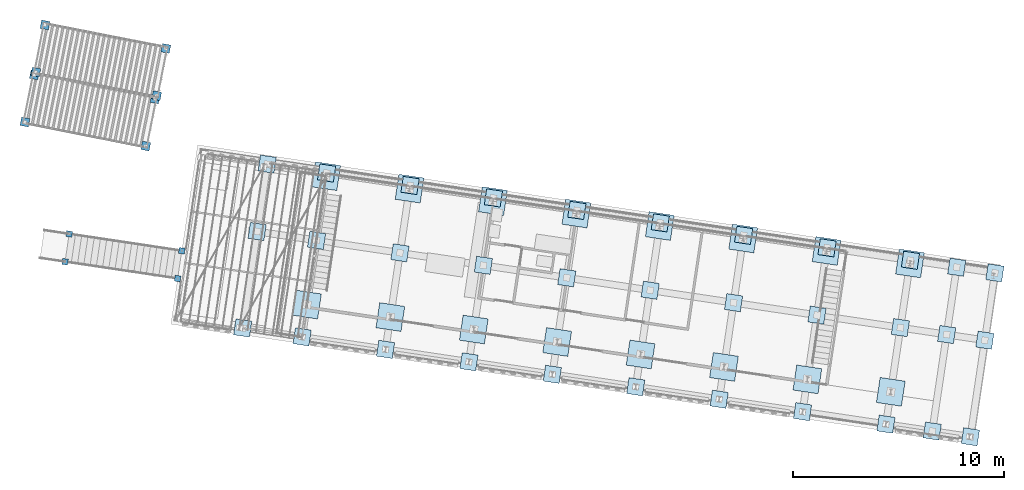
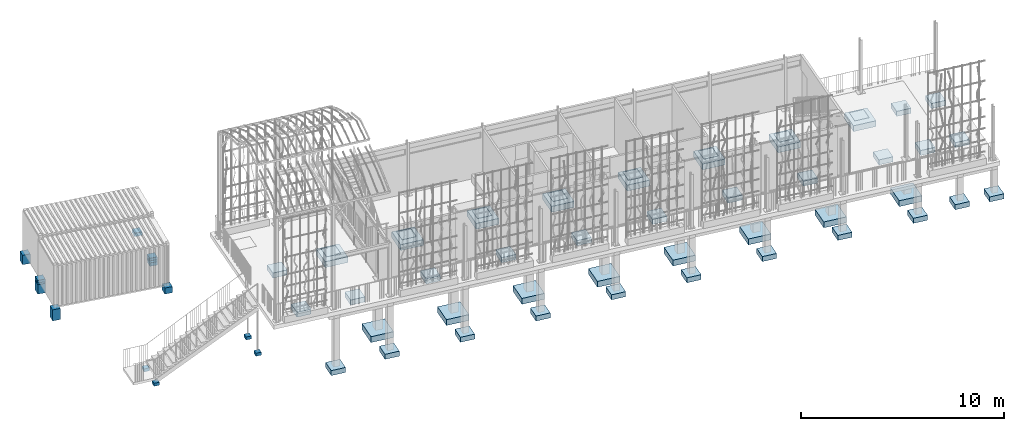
# One storey, part 1 of 143: 61 footings, 4 elements without a shape of their own.
"""IFC4 building model written with IfcOpenShell, lengths in metres."""

from ifc_helpers import new_model, si_unit, direction, frame, origin_with_axes, place, context, subcontext, project, spatial, polyline, outline, extrude, material, element, aggregate, save


model = new_model("IFC4")

# Units and contexts
model_context = context("Model", 3, precision=1e-05, world=origin_with_axes(), true_north=direction((0.0, 1.0)))
body_context = subcontext(model_context, "Body", "Model", "MODEL_VIEW")
ifc_project = project(units=[si_unit("VOLUMEUNIT", "CUBIC_METRE"), si_unit("LENGTHUNIT", "METRE"), si_unit("AREAUNIT", "SQUARE_METRE")], contexts=[model_context])

# Site, building, storey
site_placement = place(None, origin_with_axes())
site = spatial("IfcSite", under=ifc_project, at=site_placement, Name="Lares · Rua das Mercês · artigo 4771")
building_placement = place(site_placement, frame((15.0, 9.7, 15.8), z_axis=(0.0, 0.0, 1.0), x_axis=(0.989015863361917, -0.147809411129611, 0.0)))
building = spatial("IfcBuilding", under=site, at=building_placement, Name="Casa Sobreposta")
storey_placement = place(building_placement, origin_with_axes())
storey = spatial("IfcBuildingStorey", under=building, at=storey_placement, Name="00 · Habitação e estacionamento", Elevation=15.8)

# Footings
ifc_material = material(Name="Betão armado / Stahlbeton", Category="concrete")
footing_1_placement = place(storey_placement, frame((0.0, 0.0, -3.35), z_axis=(0.0, 0.0, 1.0), x_axis=(1.0, 0.0, 0.0)))
element("IfcFooting", 1, at=footing_1_placement, inside=storey, material=ifc_material, Name="Sapata 1A · hipótese", PredefinedType="PAD_FOOTING", context=body_context, shape_type="SweptSolid", body=[
    extrude(outline(polyline([(0.6, -0.48), (0.6, 0.72), (-0.6, 0.72), (-0.6, -0.48), (0.6, -0.48)])), origin_with_axes(), (0.0, 0.0, 1.0), 0.35),
])
footing_2_placement = place(storey_placement, frame((0.0, 0.0, -2.85), z_axis=(0.0, 0.0, 1.0), x_axis=(1.0, 0.0, 0.0)))
element("IfcFooting", 2, at=footing_2_placement, inside=storey, material=ifc_material, Name="Sapata 1B · hipótese", PredefinedType="PAD_FOOTING", context=body_context, shape_type="SweptSolid", body=[
    extrude(outline(polyline([(0.6, 5.68), (0.6, 6.88), (-0.6, 6.88), (-0.6, 5.68), (0.6, 5.68)])), origin_with_axes(), (0.0, 0.0, 1.0), 0.35),
])
footing_3_placement = place(storey_placement, frame((0.0, 0.0, -3.35), z_axis=(0.0, 0.0, 1.0), x_axis=(1.0, 0.0, 0.0)))
element("IfcFooting", 3, at=footing_3_placement, inside=storey, material=ifc_material, Name="Sapata 2A · hipótese", PredefinedType="PAD_FOOTING", context=body_context, shape_type="SweptSolid", body=[
    extrude(outline(polyline([(4.6, -0.48), (4.6, 0.72), (3.4, 0.72), (3.4, -0.48), (4.6, -0.48)])), origin_with_axes(), (0.0, 0.0, 1.0), 0.35),
])
footing_4_placement = place(storey_placement, frame((0.0, 0.0, -2.85), z_axis=(0.0, 0.0, 1.0), x_axis=(1.0, 0.0, 0.0)))
element("IfcFooting", 4, at=footing_4_placement, inside=storey, material=ifc_material, Name="Sapata 2B · hipótese", PredefinedType="PAD_FOOTING", context=body_context, shape_type="SweptSolid", body=[
    extrude(outline(polyline([(4.6, 5.68), (4.6, 6.88), (3.4, 6.88), (3.4, 5.68), (4.6, 5.68)])), origin_with_axes(), (0.0, 0.0, 1.0), 0.35),
])
footing_5_placement = place(storey_placement, frame((0.0, 0.0, -3.1), z_axis=(0.0, 0.0, 1.0), x_axis=(1.0, 0.0, 0.0)))
element("IfcFooting", 5, at=footing_5_placement, inside=storey, material=ifc_material, Name="Sapata 3A · hipótese", PredefinedType="PAD_FOOTING", context=body_context, shape_type="SweptSolid", body=[
    extrude(outline(polyline([(8.6, -0.48), (8.6, 0.72), (7.4, 0.72), (7.4, -0.48), (8.6, -0.48)])), origin_with_axes(), (0.0, 0.0, 1.0), 0.35),
])
footing_6_placement = place(storey_placement, frame((0.0, 0.0, -2.6), z_axis=(0.0, 0.0, 1.0), x_axis=(1.0, 0.0, 0.0)))
element("IfcFooting", 6, at=footing_6_placement, inside=storey, material=ifc_material, Name="Sapata 3B · hipótese", PredefinedType="PAD_FOOTING", context=body_context, shape_type="SweptSolid", body=[
    extrude(outline(polyline([(8.6, 5.68), (8.6, 6.88), (7.4, 6.88), (7.4, 5.68), (8.6, 5.68)])), origin_with_axes(), (0.0, 0.0, 1.0), 0.35),
])
footing_7_placement = place(storey_placement, frame((0.0, 0.0, -3.1), z_axis=(0.0, 0.0, 1.0), x_axis=(1.0, 0.0, 0.0)))
element("IfcFooting", 7, at=footing_7_placement, inside=storey, material=ifc_material, Name="Sapata 4A · hipótese", PredefinedType="PAD_FOOTING", context=body_context, shape_type="SweptSolid", body=[
    extrude(outline(polyline([(12.6, -0.48), (12.6, 0.72), (11.4, 0.72), (11.4, -0.48), (12.6, -0.48)])), origin_with_axes(), (0.0, 0.0, 1.0), 0.35),
])
footing_8_placement = place(storey_placement, frame((0.0, 0.0, -2.6), z_axis=(0.0, 0.0, 1.0), x_axis=(1.0, 0.0, 0.0)))
element("IfcFooting", 8, at=footing_8_placement, inside=storey, material=ifc_material, Name="Sapata 4B · hipótese", PredefinedType="PAD_FOOTING", context=body_context, shape_type="SweptSolid", body=[
    extrude(outline(polyline([(12.6, 5.68), (12.6, 6.88), (11.4, 6.88), (11.4, 5.68), (12.6, 5.68)])), origin_with_axes(), (0.0, 0.0, 1.0), 0.35),
])
footing_9_placement = place(storey_placement, frame((0.0, 0.0, -2.85), z_axis=(0.0, 0.0, 1.0), x_axis=(1.0, 0.0, 0.0)))
element("IfcFooting", 9, at=footing_9_placement, inside=storey, material=ifc_material, Name="Sapata 5A · hipótese", PredefinedType="PAD_FOOTING", context=body_context, shape_type="SweptSolid", body=[
    extrude(outline(polyline([(16.6, -0.48), (16.6, 0.72), (15.4, 0.72), (15.4, -0.48), (16.6, -0.48)])), origin_with_axes(), (0.0, 0.0, 1.0), 0.35),
])
footing_10_placement = place(storey_placement, frame((0.0, 0.0, -2.35), z_axis=(0.0, 0.0, 1.0), x_axis=(1.0, 0.0, 0.0)))
element("IfcFooting", 10, at=footing_10_placement, inside=storey, material=ifc_material, Name="Sapata 5B · hipótese", PredefinedType="PAD_FOOTING", context=body_context, shape_type="SweptSolid", body=[
    extrude(outline(polyline([(16.6, 5.68), (16.6, 6.88), (15.4, 6.88), (15.4, 5.68), (16.6, 5.68)])), origin_with_axes(), (0.0, 0.0, 1.0), 0.35),
])
footing_11_placement = place(storey_placement, frame((0.0, 0.0, -2.6), z_axis=(0.0, 0.0, 1.0), x_axis=(1.0, 0.0, 0.0)))
element("IfcFooting", 11, at=footing_11_placement, inside=storey, material=ifc_material, Name="Sapata 6A · hipótese", PredefinedType="PAD_FOOTING", context=body_context, shape_type="SweptSolid", body=[
    extrude(outline(polyline([(20.6, -0.48), (20.6, 0.72), (19.4, 0.72), (19.4, -0.48), (20.6, -0.48)])), origin_with_axes(), (0.0, 0.0, 1.0), 0.35),
])
footing_12_placement = place(storey_placement, frame((0.0, 0.0, -2.1), z_axis=(0.0, 0.0, 1.0), x_axis=(1.0, 0.0, 0.0)))
element("IfcFooting", 12, at=footing_12_placement, inside=storey, material=ifc_material, Name="Sapata 6B · hipótese", PredefinedType="PAD_FOOTING", context=body_context, shape_type="SweptSolid", body=[
    extrude(outline(polyline([(20.6, 5.68), (20.6, 6.88), (19.4, 6.88), (19.4, 5.68), (20.6, 5.68)])), origin_with_axes(), (0.0, 0.0, 1.0), 0.35),
])
footing_13_placement = place(storey_placement, frame((0.0, 0.0, -2.6), z_axis=(0.0, 0.0, 1.0), x_axis=(1.0, 0.0, 0.0)))
element("IfcFooting", 13, at=footing_13_placement, inside=storey, material=ifc_material, Name="Sapata 7A · hipótese", PredefinedType="PAD_FOOTING", context=body_context, shape_type="SweptSolid", body=[
    extrude(outline(polyline([(24.6, -0.48), (24.6, 0.72), (23.4, 0.72), (23.4, -0.48), (24.6, -0.48)])), origin_with_axes(), (0.0, 0.0, 1.0), 0.35),
])
footing_14_placement = place(storey_placement, frame((0.0, 0.0, -2.1), z_axis=(0.0, 0.0, 1.0), x_axis=(1.0, 0.0, 0.0)))
element("IfcFooting", 14, at=footing_14_placement, inside=storey, material=ifc_material, Name="Sapata 7B · hipótese", PredefinedType="PAD_FOOTING", context=body_context, shape_type="SweptSolid", body=[
    extrude(outline(polyline([(24.6, 5.68), (24.6, 6.88), (23.4, 6.88), (23.4, 5.68), (24.6, 5.68)])), origin_with_axes(), (0.0, 0.0, 1.0), 0.35),
])
footing_15_placement = place(storey_placement, frame((0.0, 0.0, -2.35), z_axis=(0.0, 0.0, 1.0), x_axis=(1.0, 0.0, 0.0)))
element("IfcFooting", 15, at=footing_15_placement, inside=storey, material=ifc_material, Name="Sapata 8A · hipótese", PredefinedType="PAD_FOOTING", context=body_context, shape_type="SweptSolid", body=[
    extrude(outline(polyline([(28.6, -0.48), (28.6, 0.72), (27.4, 0.72), (27.4, -0.48), (28.6, -0.48)])), origin_with_axes(), (0.0, 0.0, 1.0), 0.35),
])
footing_16_placement = place(storey_placement, frame((0.0, 0.0, -1.85), z_axis=(0.0, 0.0, 1.0), x_axis=(1.0, 0.0, 0.0)))
element("IfcFooting", 16, at=footing_16_placement, inside=storey, material=ifc_material, Name="Sapata 8B · hipótese", PredefinedType="PAD_FOOTING", context=body_context, shape_type="SweptSolid", body=[
    extrude(outline(polyline([(28.6, 5.68), (28.6, 6.88), (27.4, 6.88), (27.4, 5.68), (28.6, 5.68)])), origin_with_axes(), (0.0, 0.0, 1.0), 0.35),
])

# Stair, footings
stair_placement = place(storey_placement, origin_with_axes())
stair = element("IfcStair", 17, at=stair_placement, inside=storey, Name="Jardim · escada pela fachada poente", PredefinedType="STRAIGHT_RUN_STAIR")
footing_17_placement = place(stair_placement, frame((0.0, 0.0, -3.19767746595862), z_axis=(0.0, 0.0, 1.0), x_axis=(1.0, 0.0, 0.0)))
footing_17 = element("IfcFooting", 18, at=footing_17_placement, material=ifc_material, Name="Jardim · apoio", PredefinedType="PAD_FOOTING", context=body_context, shape_type="SweptSolid", body=[
    extrude(outline(polyline([(-6.11, 0.295), (-6.11, 0.575), (-6.39, 0.575), (-6.39, 0.295), (-6.11, 0.295)])), origin_with_axes(), (0.0, 0.0, 1.0), 0.18),
])
footing_18_placement = place(stair_placement, frame((0.0, 0.0, -3.62), z_axis=(0.0, 0.0, 1.0), x_axis=(1.0, 0.0, 0.0)))
footing_18 = element("IfcFooting", 19, at=footing_18_placement, material=ifc_material, Name="Jardim · apoio", PredefinedType="PAD_FOOTING", context=body_context, shape_type="SweptSolid", body=[
    extrude(outline(polyline([(-11.51, 0.295), (-11.51, 0.575), (-11.79, 0.575), (-11.79, 0.295), (-11.51, 0.295)])), origin_with_axes(), (0.0, 0.0, 1.0), 0.18),
])
footing_19_placement = place(stair_placement, frame((0.0, 0.0, -3.08553574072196), z_axis=(0.0, 0.0, 1.0), x_axis=(1.0, 0.0, 0.0)))
footing_19 = element("IfcFooting", 20, at=footing_19_placement, material=ifc_material, Name="Jardim · apoio", PredefinedType="PAD_FOOTING", context=body_context, shape_type="SweptSolid", body=[
    extrude(outline(polyline([(-6.11, 1.625), (-6.11, 1.905), (-6.39, 1.905), (-6.39, 1.625), (-6.11, 1.625)])), origin_with_axes(), (0.0, 0.0, 1.0), 0.18),
])
footing_20_placement = place(stair_placement, frame((0.0, 0.0, -3.62), z_axis=(0.0, 0.0, 1.0), x_axis=(1.0, 0.0, 0.0)))
footing_20 = element("IfcFooting", 21, at=footing_20_placement, material=ifc_material, Name="Jardim · apoio", PredefinedType="PAD_FOOTING", context=body_context, shape_type="SweptSolid", body=[
    extrude(outline(polyline([(-11.51, 1.625), (-11.51, 1.905), (-11.79, 1.905), (-11.79, 1.625), (-11.51, 1.625)])), origin_with_axes(), (0.0, 0.0, 1.0), 0.18),
])
aggregate(stair, [footing_17, footing_18, footing_19, footing_20])

# Assembly, footings
assembly_1_placement = place(storey_placement, origin_with_axes())
assembly_1 = element("IfcElementAssembly", 22, at=assembly_1_placement, inside=storey, Name="Pódio · terraço, casa térrea e cisterna", ObjectType="CISTERN_PODIUM", PredefinedType="USERDEFINED")
footing_21_placement = place(assembly_1_placement, frame((0.0, 0.0, -3.8), z_axis=(0.0, 0.0, 1.0), x_axis=(1.0, 0.0, 0.0)))
footing_21 = element("IfcFooting", 23, at=footing_21_placement, material=ifc_material, Name="Pódio suspenso · sapata pontual", PredefinedType="PAD_FOOTING", context=body_context, shape_type="SweptSolid", body=[
    extrude(outline(polyline([(-2.47, -1.81), (-2.47, -1.05), (-3.23, -1.05), (-3.23, -1.81), (-2.47, -1.81)])), origin_with_axes(), (0.0, 0.0, 1.0), 0.3),
])
footing_22_placement = place(assembly_1_placement, frame((0.0, 0.0, -3.3), z_axis=(0.0, 0.0, 1.0), x_axis=(1.0, 0.0, 0.0)))
footing_22 = element("IfcFooting", 24, at=footing_22_placement, material=ifc_material, Name="Pódio suspenso · sapata pontual", PredefinedType="PAD_FOOTING", context=body_context, shape_type="SweptSolid", body=[
    extrude(outline(polyline([(-2.47, 2.82), (-2.47, 3.58), (-3.23, 3.58), (-3.23, 2.82), (-2.47, 2.82)])), origin_with_axes(), (0.0, 0.0, 1.0), 0.3),
])
footing_23_placement = place(assembly_1_placement, frame((0.0, 0.0, -3.05), z_axis=(0.0, 0.0, 1.0), x_axis=(1.0, 0.0, 0.0)))
footing_23 = element("IfcFooting", 25, at=footing_23_placement, material=ifc_material, Name="Pódio suspenso · sapata pontual", PredefinedType="PAD_FOOTING", context=body_context, shape_type="SweptSolid", body=[
    extrude(outline(polyline([(-2.47, 6.05), (-2.47, 6.81), (-3.23, 6.81), (-3.23, 6.05), (-2.47, 6.05)])), origin_with_axes(), (0.0, 0.0, 1.0), 0.3),
])
footing_24_placement = place(assembly_1_placement, frame((0.0, 0.0, -3.55), z_axis=(0.0, 0.0, 1.0), x_axis=(1.0, 0.0, 0.0)))
footing_24 = element("IfcFooting", 26, at=footing_24_placement, material=ifc_material, Name="Pódio suspenso · sapata pontual", PredefinedType="PAD_FOOTING", context=body_context, shape_type="SweptSolid", body=[
    extrude(outline(polyline([(0.38, -1.81), (0.38, -1.05), (-0.38, -1.05), (-0.38, -1.81), (0.38, -1.81)])), origin_with_axes(), (0.0, 0.0, 1.0), 0.3),
])
footing_25_placement = place(assembly_1_placement, frame((0.0, 0.0, -3.3), z_axis=(0.0, 0.0, 1.0), x_axis=(1.0, 0.0, 0.0)))
footing_25 = element("IfcFooting", 27, at=footing_25_placement, material=ifc_material, Name="Pódio suspenso · sapata pontual", PredefinedType="PAD_FOOTING", context=body_context, shape_type="SweptSolid", body=[
    extrude(outline(polyline([(0.38, 2.82), (0.38, 3.58), (-0.38, 3.58), (-0.38, 2.82), (0.38, 2.82)])), origin_with_axes(), (0.0, 0.0, 1.0), 0.3),
])
footing_26_placement = place(assembly_1_placement, frame((0.0, 0.0, -2.8), z_axis=(0.0, 0.0, 1.0), x_axis=(1.0, 0.0, 0.0)))
footing_26 = element("IfcFooting", 28, at=footing_26_placement, material=ifc_material, Name="Pódio suspenso · sapata pontual", PredefinedType="PAD_FOOTING", context=body_context, shape_type="SweptSolid", body=[
    extrude(outline(polyline([(0.38, 6.05), (0.38, 6.81), (-0.38, 6.81), (-0.38, 6.05), (0.38, 6.05)])), origin_with_axes(), (0.0, 0.0, 1.0), 0.3),
])
footing_27_placement = place(assembly_1_placement, frame((0.0, 0.0, -3.55), z_axis=(0.0, 0.0, 1.0), x_axis=(1.0, 0.0, 0.0)))
footing_27 = element("IfcFooting", 29, at=footing_27_placement, material=ifc_material, Name="Pódio suspenso · sapata pontual", PredefinedType="PAD_FOOTING", context=body_context, shape_type="SweptSolid", body=[
    extrude(outline(polyline([(4.38, -1.81), (4.38, -1.05), (3.62, -1.05), (3.62, -1.81), (4.38, -1.81)])), origin_with_axes(), (0.0, 0.0, 1.0), 0.3),
])
footing_28_placement = place(assembly_1_placement, frame((0.0, 0.0, -3.05), z_axis=(0.0, 0.0, 1.0), x_axis=(1.0, 0.0, 0.0)))
footing_28 = element("IfcFooting", 30, at=footing_28_placement, material=ifc_material, Name="Pódio suspenso · sapata pontual", PredefinedType="PAD_FOOTING", context=body_context, shape_type="SweptSolid", body=[
    extrude(outline(polyline([(4.38, 2.82), (4.38, 3.58), (3.62, 3.58), (3.62, 2.82), (4.38, 2.82)])), origin_with_axes(), (0.0, 0.0, 1.0), 0.3),
])
footing_29_placement = place(assembly_1_placement, frame((0.0, 0.0, -2.8), z_axis=(0.0, 0.0, 1.0), x_axis=(1.0, 0.0, 0.0)))
footing_29 = element("IfcFooting", 31, at=footing_29_placement, material=ifc_material, Name="Pódio suspenso · sapata pontual", PredefinedType="PAD_FOOTING", context=body_context, shape_type="SweptSolid", body=[
    extrude(outline(polyline([(4.38, 6.05), (4.38, 6.81), (3.62, 6.81), (3.62, 6.05), (4.38, 6.05)])), origin_with_axes(), (0.0, 0.0, 1.0), 0.3),
])
footing_30_placement = place(assembly_1_placement, frame((0.0, 0.0, -3.3), z_axis=(0.0, 0.0, 1.0), x_axis=(1.0, 0.0, 0.0)))
footing_30 = element("IfcFooting", 32, at=footing_30_placement, material=ifc_material, Name="Pódio suspenso · sapata pontual", PredefinedType="PAD_FOOTING", context=body_context, shape_type="SweptSolid", body=[
    extrude(outline(polyline([(8.38, -1.81), (8.38, -1.05), (7.62, -1.05), (7.62, -1.81), (8.38, -1.81)])), origin_with_axes(), (0.0, 0.0, 1.0), 0.3),
])
footing_31_placement = place(assembly_1_placement, frame((0.0, 0.0, -2.8), z_axis=(0.0, 0.0, 1.0), x_axis=(1.0, 0.0, 0.0)))
footing_31 = element("IfcFooting", 33, at=footing_31_placement, material=ifc_material, Name="Pódio suspenso · sapata pontual", PredefinedType="PAD_FOOTING", context=body_context, shape_type="SweptSolid", body=[
    extrude(outline(polyline([(8.38, 2.82), (8.38, 3.58), (7.62, 3.58), (7.62, 2.82), (8.38, 2.82)])), origin_with_axes(), (0.0, 0.0, 1.0), 0.3),
])
footing_32_placement = place(assembly_1_placement, frame((0.0, 0.0, -2.55), z_axis=(0.0, 0.0, 1.0), x_axis=(1.0, 0.0, 0.0)))
footing_32 = element("IfcFooting", 34, at=footing_32_placement, material=ifc_material, Name="Pódio suspenso · sapata pontual", PredefinedType="PAD_FOOTING", context=body_context, shape_type="SweptSolid", body=[
    extrude(outline(polyline([(8.38, 6.05), (8.38, 6.81), (7.62, 6.81), (7.62, 6.05), (8.38, 6.05)])), origin_with_axes(), (0.0, 0.0, 1.0), 0.3),
])
footing_33_placement = place(assembly_1_placement, frame((0.0, 0.0, -3.05), z_axis=(0.0, 0.0, 1.0), x_axis=(1.0, 0.0, 0.0)))
footing_33 = element("IfcFooting", 35, at=footing_33_placement, material=ifc_material, Name="Pódio suspenso · sapata pontual", PredefinedType="PAD_FOOTING", context=body_context, shape_type="SweptSolid", body=[
    extrude(outline(polyline([(12.38, -1.81), (12.38, -1.05), (11.62, -1.05), (11.62, -1.81), (12.38, -1.81)])), origin_with_axes(), (0.0, 0.0, 1.0), 0.3),
])
footing_34_placement = place(assembly_1_placement, frame((0.0, 0.0, -2.8), z_axis=(0.0, 0.0, 1.0), x_axis=(1.0, 0.0, 0.0)))
footing_34 = element("IfcFooting", 36, at=footing_34_placement, material=ifc_material, Name="Pódio suspenso · sapata pontual", PredefinedType="PAD_FOOTING", context=body_context, shape_type="SweptSolid", body=[
    extrude(outline(polyline([(12.38, 2.82), (12.38, 3.58), (11.62, 3.58), (11.62, 2.82), (12.38, 2.82)])), origin_with_axes(), (0.0, 0.0, 1.0), 0.3),
])
footing_35_placement = place(assembly_1_placement, frame((0.0, 0.0, -2.55), z_axis=(0.0, 0.0, 1.0), x_axis=(1.0, 0.0, 0.0)))
footing_35 = element("IfcFooting", 37, at=footing_35_placement, material=ifc_material, Name="Pódio suspenso · sapata pontual", PredefinedType="PAD_FOOTING", context=body_context, shape_type="SweptSolid", body=[
    extrude(outline(polyline([(12.38, 6.05), (12.38, 6.81), (11.62, 6.81), (11.62, 6.05), (12.38, 6.05)])), origin_with_axes(), (0.0, 0.0, 1.0), 0.3),
])
footing_36_placement = place(assembly_1_placement, frame((0.0, 0.0, -3.05), z_axis=(0.0, 0.0, 1.0), x_axis=(1.0, 0.0, 0.0)))
footing_36 = element("IfcFooting", 38, at=footing_36_placement, material=ifc_material, Name="Pódio suspenso · sapata pontual", PredefinedType="PAD_FOOTING", context=body_context, shape_type="SweptSolid", body=[
    extrude(outline(polyline([(16.38, -1.81), (16.38, -1.05), (15.62, -1.05), (15.62, -1.81), (16.38, -1.81)])), origin_with_axes(), (0.0, 0.0, 1.0), 0.3),
])
footing_37_placement = place(assembly_1_placement, frame((0.0, 0.0, -2.55), z_axis=(0.0, 0.0, 1.0), x_axis=(1.0, 0.0, 0.0)))
footing_37 = element("IfcFooting", 39, at=footing_37_placement, material=ifc_material, Name="Pódio suspenso · sapata pontual", PredefinedType="PAD_FOOTING", context=body_context, shape_type="SweptSolid", body=[
    extrude(outline(polyline([(16.38, 2.82), (16.38, 3.58), (15.62, 3.58), (15.62, 2.82), (16.38, 2.82)])), origin_with_axes(), (0.0, 0.0, 1.0), 0.3),
])
footing_38_placement = place(assembly_1_placement, frame((0.0, 0.0, -2.3), z_axis=(0.0, 0.0, 1.0), x_axis=(1.0, 0.0, 0.0)))
footing_38 = element("IfcFooting", 40, at=footing_38_placement, material=ifc_material, Name="Pódio suspenso · sapata pontual", PredefinedType="PAD_FOOTING", context=body_context, shape_type="SweptSolid", body=[
    extrude(outline(polyline([(16.38, 6.05), (16.38, 6.81), (15.62, 6.81), (15.62, 6.05), (16.38, 6.05)])), origin_with_axes(), (0.0, 0.0, 1.0), 0.3),
])
footing_39_placement = place(assembly_1_placement, frame((0.0, 0.0, -2.8), z_axis=(0.0, 0.0, 1.0), x_axis=(1.0, 0.0, 0.0)))
footing_39 = element("IfcFooting", 41, at=footing_39_placement, material=ifc_material, Name="Pódio suspenso · sapata pontual", PredefinedType="PAD_FOOTING", context=body_context, shape_type="SweptSolid", body=[
    extrude(outline(polyline([(20.38, -1.81), (20.38, -1.05), (19.62, -1.05), (19.62, -1.81), (20.38, -1.81)])), origin_with_axes(), (0.0, 0.0, 1.0), 0.3),
])
footing_40_placement = place(assembly_1_placement, frame((0.0, 0.0, -2.3), z_axis=(0.0, 0.0, 1.0), x_axis=(1.0, 0.0, 0.0)))
footing_40 = element("IfcFooting", 42, at=footing_40_placement, material=ifc_material, Name="Pódio suspenso · sapata pontual", PredefinedType="PAD_FOOTING", context=body_context, shape_type="SweptSolid", body=[
    extrude(outline(polyline([(20.38, 2.82), (20.38, 3.58), (19.62, 3.58), (19.62, 2.82), (20.38, 2.82)])), origin_with_axes(), (0.0, 0.0, 1.0), 0.3),
])
footing_41_placement = place(assembly_1_placement, frame((0.0, 0.0, -2.05), z_axis=(0.0, 0.0, 1.0), x_axis=(1.0, 0.0, 0.0)))
footing_41 = element("IfcFooting", 43, at=footing_41_placement, material=ifc_material, Name="Pódio suspenso · sapata pontual", PredefinedType="PAD_FOOTING", context=body_context, shape_type="SweptSolid", body=[
    extrude(outline(polyline([(20.38, 6.05), (20.38, 6.81), (19.62, 6.81), (19.62, 6.05), (20.38, 6.05)])), origin_with_axes(), (0.0, 0.0, 1.0), 0.3),
])
footing_42_placement = place(assembly_1_placement, frame((0.0, 0.0, -2.55), z_axis=(0.0, 0.0, 1.0), x_axis=(1.0, 0.0, 0.0)))
footing_42 = element("IfcFooting", 44, at=footing_42_placement, material=ifc_material, Name="Pódio suspenso · sapata pontual", PredefinedType="PAD_FOOTING", context=body_context, shape_type="SweptSolid", body=[
    extrude(outline(polyline([(24.38, -1.81), (24.38, -1.05), (23.62, -1.05), (23.62, -1.81), (24.38, -1.81)])), origin_with_axes(), (0.0, 0.0, 1.0), 0.3),
])
footing_43_placement = place(assembly_1_placement, frame((0.0, 0.0, -2.3), z_axis=(0.0, 0.0, 1.0), x_axis=(1.0, 0.0, 0.0)))
footing_43 = element("IfcFooting", 45, at=footing_43_placement, material=ifc_material, Name="Pódio suspenso · sapata pontual", PredefinedType="PAD_FOOTING", context=body_context, shape_type="SweptSolid", body=[
    extrude(outline(polyline([(24.38, 2.82), (24.38, 3.58), (23.62, 3.58), (23.62, 2.82), (24.38, 2.82)])), origin_with_axes(), (0.0, 0.0, 1.0), 0.3),
])
footing_44_placement = place(assembly_1_placement, frame((0.0, 0.0, -2.05), z_axis=(0.0, 0.0, 1.0), x_axis=(1.0, 0.0, 0.0)))
footing_44 = element("IfcFooting", 46, at=footing_44_placement, material=ifc_material, Name="Pódio suspenso · sapata pontual", PredefinedType="PAD_FOOTING", context=body_context, shape_type="SweptSolid", body=[
    extrude(outline(polyline([(24.38, 6.05), (24.38, 6.81), (23.62, 6.81), (23.62, 6.05), (24.38, 6.05)])), origin_with_axes(), (0.0, 0.0, 1.0), 0.3),
])
footing_45_placement = place(assembly_1_placement, frame((0.0, 0.0, -2.55), z_axis=(0.0, 0.0, 1.0), x_axis=(1.0, 0.0, 0.0)))
footing_45 = element("IfcFooting", 47, at=footing_45_placement, material=ifc_material, Name="Pódio suspenso · sapata pontual", PredefinedType="PAD_FOOTING", context=body_context, shape_type="SweptSolid", body=[
    extrude(outline(polyline([(28.38, -1.81), (28.38, -1.05), (27.62, -1.05), (27.62, -1.81), (28.38, -1.81)])), origin_with_axes(), (0.0, 0.0, 1.0), 0.3),
])
footing_46_placement = place(assembly_1_placement, frame((0.0, 0.0, -2.05), z_axis=(0.0, 0.0, 1.0), x_axis=(1.0, 0.0, 0.0)))
footing_46 = element("IfcFooting", 48, at=footing_46_placement, material=ifc_material, Name="Pódio suspenso · sapata pontual", PredefinedType="PAD_FOOTING", context=body_context, shape_type="SweptSolid", body=[
    extrude(outline(polyline([(28.38, 2.82), (28.38, 3.58), (27.62, 3.58), (27.62, 2.82), (28.38, 2.82)])), origin_with_axes(), (0.0, 0.0, 1.0), 0.3),
])
footing_47_placement = place(assembly_1_placement, frame((0.0, 0.0, -1.8), z_axis=(0.0, 0.0, 1.0), x_axis=(1.0, 0.0, 0.0)))
footing_47 = element("IfcFooting", 49, at=footing_47_placement, material=ifc_material, Name="Pódio suspenso · sapata pontual", PredefinedType="PAD_FOOTING", context=body_context, shape_type="SweptSolid", body=[
    extrude(outline(polyline([(28.38, 6.05), (28.38, 6.81), (27.62, 6.81), (27.62, 6.05), (28.38, 6.05)])), origin_with_axes(), (0.0, 0.0, 1.0), 0.3),
])
footing_48_placement = place(assembly_1_placement, frame((0.0, 0.0, -2.3), z_axis=(0.0, 0.0, 1.0), x_axis=(1.0, 0.0, 0.0)))
footing_48 = element("IfcFooting", 50, at=footing_48_placement, material=ifc_material, Name="Pódio suspenso · sapata pontual", PredefinedType="PAD_FOOTING", context=body_context, shape_type="SweptSolid", body=[
    extrude(outline(polyline([(30.6, -1.81), (30.6, -1.05), (29.84, -1.05), (29.84, -1.81), (30.6, -1.81)])), origin_with_axes(), (0.0, 0.0, 1.0), 0.3),
])
footing_49_placement = place(assembly_1_placement, frame((0.0, 0.0, -2.05), z_axis=(0.0, 0.0, 1.0), x_axis=(1.0, 0.0, 0.0)))
footing_49 = element("IfcFooting", 51, at=footing_49_placement, material=ifc_material, Name="Pódio suspenso · sapata pontual", PredefinedType="PAD_FOOTING", context=body_context, shape_type="SweptSolid", body=[
    extrude(outline(polyline([(30.6, 2.82), (30.6, 3.58), (29.84, 3.58), (29.84, 2.82), (30.6, 2.82)])), origin_with_axes(), (0.0, 0.0, 1.0), 0.3),
])
footing_50_placement = place(assembly_1_placement, frame((0.0, 0.0, -1.8), z_axis=(0.0, 0.0, 1.0), x_axis=(1.0, 0.0, 0.0)))
footing_50 = element("IfcFooting", 52, at=footing_50_placement, material=ifc_material, Name="Pódio suspenso · sapata pontual", PredefinedType="PAD_FOOTING", context=body_context, shape_type="SweptSolid", body=[
    extrude(outline(polyline([(30.6, 6.05), (30.6, 6.81), (29.84, 6.81), (29.84, 6.05), (30.6, 6.05)])), origin_with_axes(), (0.0, 0.0, 1.0), 0.3),
])
footing_51_placement = place(assembly_1_placement, frame((0.0, 0.0, -2.3), z_axis=(0.0, 0.0, 1.0), x_axis=(1.0, 0.0, 0.0)))
footing_51 = element("IfcFooting", 53, at=footing_51_placement, material=ifc_material, Name="Pódio suspenso · sapata pontual", PredefinedType="PAD_FOOTING", context=body_context, shape_type="SweptSolid", body=[
    extrude(outline(polyline([(32.43, -1.81), (32.43, -1.05), (31.67, -1.05), (31.67, -1.81), (32.43, -1.81)])), origin_with_axes(), (0.0, 0.0, 1.0), 0.3),
])
footing_52_placement = place(assembly_1_placement, frame((0.0, 0.0, -2.05), z_axis=(0.0, 0.0, 1.0), x_axis=(1.0, 0.0, 0.0)))
footing_52 = element("IfcFooting", 54, at=footing_52_placement, material=ifc_material, Name="Pódio suspenso · sapata pontual", PredefinedType="PAD_FOOTING", context=body_context, shape_type="SweptSolid", body=[
    extrude(outline(polyline([(32.43, 2.82), (32.43, 3.58), (31.67, 3.58), (31.67, 2.82), (32.43, 2.82)])), origin_with_axes(), (0.0, 0.0, 1.0), 0.3),
])
footing_53_placement = place(assembly_1_placement, frame((0.0, 0.0, -1.8), z_axis=(0.0, 0.0, 1.0), x_axis=(1.0, 0.0, 0.0)))
footing_53 = element("IfcFooting", 55, at=footing_53_placement, material=ifc_material, Name="Pódio suspenso · sapata pontual", PredefinedType="PAD_FOOTING", context=body_context, shape_type="SweptSolid", body=[
    extrude(outline(polyline([(32.43, 6.05), (32.43, 6.81), (31.67, 6.81), (31.67, 6.05), (32.43, 6.05)])), origin_with_axes(), (0.0, 0.0, 1.0), 0.3),
])
aggregate(assembly_1, [footing_21, footing_22, footing_23, footing_24, footing_25, footing_26, footing_27, footing_28, footing_29, footing_30, footing_31, footing_32, footing_33, footing_34, footing_35, footing_36, footing_37, footing_38, footing_39, footing_40, footing_41, footing_42, footing_43, footing_44, footing_45, footing_46, footing_47, footing_48, footing_49, footing_50, footing_51, footing_52, footing_53])

assembly_2_placement = place(storey_placement, frame((-14.4335953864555, 9.04888612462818, 0.0), z_axis=(0.0, 0.0, 1.0), x_axis=(0.999032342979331, -0.0439815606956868, 0.0)))
assembly_2 = element("IfcElementAssembly", 56, at=assembly_2_placement, inside=storey, Name="Contentor existente 1 · 6 m", ObjectType="EXISTING_SHIPPING_CONTAINER", PredefinedType="USERDEFINED")
footing_54_placement = place(assembly_2_placement, frame((0.0, 0.0, -2.87368011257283), z_axis=(0.0, 0.0, 1.0), x_axis=(1.0, 0.0, 0.0)))
footing_54 = element("IfcFooting", 57, at=footing_54_placement, material=ifc_material, Name="Contentor · apoio existente indicativo", PredefinedType="PAD_FOOTING", context=body_context, shape_type="SweptSolid", body=[
    extrude(outline(polyline([(0.28, -0.12), (0.28, 0.28), (-0.12, 0.28), (-0.12, -0.12), (0.28, -0.12)])), origin_with_axes(), (0.0, 0.0, 1.0), 0.710538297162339),
])
footing_55_placement = place(assembly_2_placement, frame((0.0, 0.0, -2.7312660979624), z_axis=(0.0, 0.0, 1.0), x_axis=(1.0, 0.0, 0.0)))
footing_55 = element("IfcFooting", 58, at=footing_55_placement, material=ifc_material, Name="Contentor · apoio existente indicativo", PredefinedType="PAD_FOOTING", context=body_context, shape_type="SweptSolid", body=[
    extrude(outline(polyline([(0.28, 2.16), (0.28, 2.56), (-0.12, 2.56), (-0.12, 2.16), (0.28, 2.16)])), origin_with_axes(), (0.0, 0.0, 1.0), 0.568124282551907),
])
footing_56_placement = place(assembly_2_placement, frame((0.0, 0.0, -2.51548809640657), z_axis=(0.0, 0.0, 1.0), x_axis=(1.0, 0.0, 0.0)))
footing_56 = element("IfcFooting", 59, at=footing_56_placement, material=ifc_material, Name="Contentor · apoio existente indicativo", PredefinedType="PAD_FOOTING", context=body_context, shape_type="SweptSolid", body=[
    extrude(outline(polyline([(6.12, -0.12), (6.12, 0.28), (5.72, 0.28), (5.72, -0.12), (6.12, -0.12)])), origin_with_axes(), (0.0, 0.0, 1.0), 0.352346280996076),
])
footing_57_placement = place(assembly_2_placement, frame((0.0, 0.0, -2.37298332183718), z_axis=(0.0, 0.0, 1.0), x_axis=(1.0, 0.0, 0.0)))
footing_57 = element("IfcFooting", 60, at=footing_57_placement, material=ifc_material, Name="Contentor · apoio existente indicativo", PredefinedType="PAD_FOOTING", context=body_context, shape_type="SweptSolid", body=[
    extrude(outline(polyline([(6.12, 2.16), (6.12, 2.56), (5.72, 2.56), (5.72, 2.16), (6.12, 2.16)])), origin_with_axes(), (0.0, 0.0, 1.0), 0.209841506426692),
])
aggregate(assembly_2, [footing_54, footing_55, footing_56, footing_57])

assembly_3_placement = place(storey_placement, frame((-14.5932944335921, 6.63122214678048, 0.0), z_axis=(0.0, 0.0, 1.0), x_axis=(0.998832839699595, -0.0483007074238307, 0.0)))
assembly_3 = element("IfcElementAssembly", 61, at=assembly_3_placement, inside=storey, Name="Contentor existente 2 · 6 m", ObjectType="EXISTING_SHIPPING_CONTAINER", PredefinedType="USERDEFINED")
footing_58_placement = place(assembly_3_placement, frame((0.0, 0.0, -2.98544963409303), z_axis=(0.0, 0.0, 1.0), x_axis=(1.0, 0.0, 0.0)))
footing_58 = element("IfcFooting", 62, at=footing_58_placement, material=ifc_material, Name="Contentor · apoio existente indicativo", PredefinedType="PAD_FOOTING", context=body_context, shape_type="SweptSolid", body=[
    extrude(outline(polyline([(0.28, -0.12), (0.28, 0.28), (-0.12, 0.28), (-0.12, -0.12), (0.28, -0.12)])), origin_with_axes(), (0.0, 0.0, 1.0), 0.666697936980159),
])
footing_59_placement = place(assembly_3_placement, frame((0.0, 0.0, -2.88526491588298), z_axis=(0.0, 0.0, 1.0), x_axis=(1.0, 0.0, 0.0)))
footing_59 = element("IfcFooting", 63, at=footing_59_placement, material=ifc_material, Name="Contentor · apoio existente indicativo", PredefinedType="PAD_FOOTING", context=body_context, shape_type="SweptSolid", body=[
    extrude(outline(polyline([(0.28, 2.16), (0.28, 2.56), (-0.12, 2.56), (-0.12, 2.16), (0.28, 2.16)])), origin_with_axes(), (0.0, 0.0, 1.0), 0.566513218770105),
])
footing_60_placement = place(assembly_3_placement, frame((0.0, 0.0, -2.68197749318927), z_axis=(0.0, 0.0, 1.0), x_axis=(1.0, 0.0, 0.0)))
footing_60 = element("IfcFooting", 64, at=footing_60_placement, material=ifc_material, Name="Contentor · apoio existente indicativo", PredefinedType="PAD_FOOTING", context=body_context, shape_type="SweptSolid", body=[
    extrude(outline(polyline([(6.12, -0.12), (6.12, 0.28), (5.72, 0.28), (5.72, -0.12), (6.12, -0.12)])), origin_with_axes(), (0.0, 0.0, 1.0), 0.363225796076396),
])
footing_61_placement = place(assembly_3_placement, frame((0.0, 0.0, -2.52859242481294), z_axis=(0.0, 0.0, 1.0), x_axis=(1.0, 0.0, 0.0)))
footing_61 = element("IfcFooting", 65, at=footing_61_placement, material=ifc_material, Name="Contentor · apoio existente indicativo", PredefinedType="PAD_FOOTING", context=body_context, shape_type="SweptSolid", body=[
    extrude(outline(polyline([(6.12, 2.16), (6.12, 2.56), (5.72, 2.56), (5.72, 2.16), (6.12, 2.16)])), origin_with_axes(), (0.0, 0.0, 1.0), 0.209840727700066),
])
aggregate(assembly_3, [footing_58, footing_59, footing_60, footing_61])

save(model, "model.ifc")
